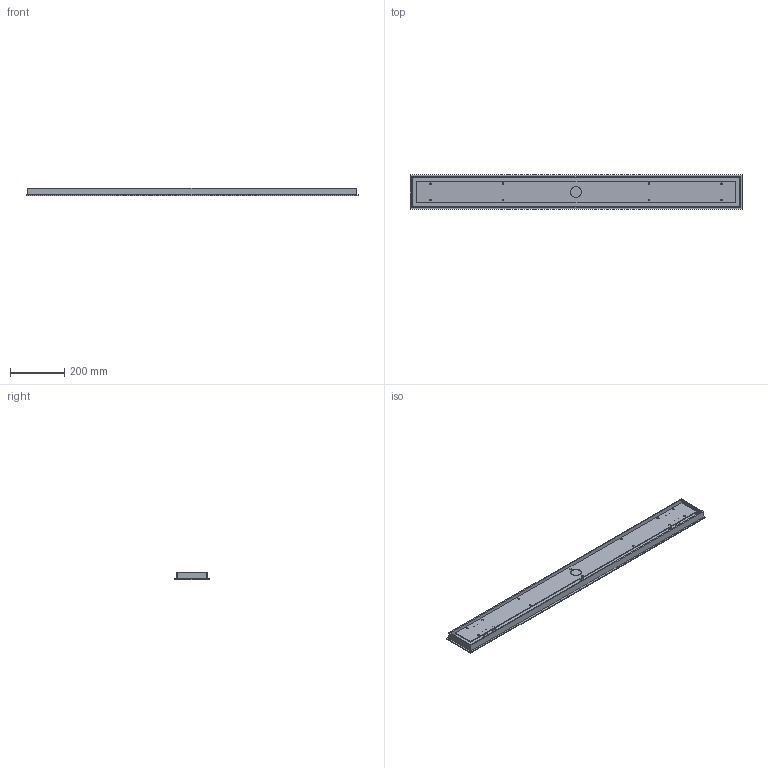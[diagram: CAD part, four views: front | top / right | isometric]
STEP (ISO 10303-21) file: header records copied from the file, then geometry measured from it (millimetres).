
FILE_DESCRIPTION(/* description */ (''),/* implementation_level */ '2;1');
FILE_NAME(/* name */ 'SkLO_Linear_Canopy_4''_MCL04_3D',/* time_stamp */ '2024-10-18T16:29:31+02:00',/* author */ (''),/* organization */ (''),/* preprocessor_version */ 'ST-DEVELOPER v16.5',/* originating_system */ 'Rhino 7.34',/* authorisation */ '');
FILE_SCHEMA (('CONFIG_CONTROL_DESIGN'));
Length unit declared in the file: millimetre
Products named in the file (1): Document
Bounding box: 1220 x 127 x 28.3 mm (x, y, z)
Volume: 939932.7 mm3; surface area: 649822.6 mm2
Topology: 2 solids, 8 shells, 169 faces, 427 edges, 283 vertices
Faces by surface type: cylinder 67, plane 64, bspline 38
Full cylindrical faces by diameter (mm): 3 x16, 5.249 x6, 6 x12, 6.2 x14, 10 x6, 40 x1
Entity records: 7682 total; most frequent: CARTESIAN_POINT 4894, ORIENTED_EDGE 808, EDGE_CURVE 407, VERTEX_POINT 262, EDGE_LOOP 229, B_SPLINE_CURVE_WITH_KNOTS 174, ADVANCED_FACE 169, FACE_OUTER_BOUND 169
